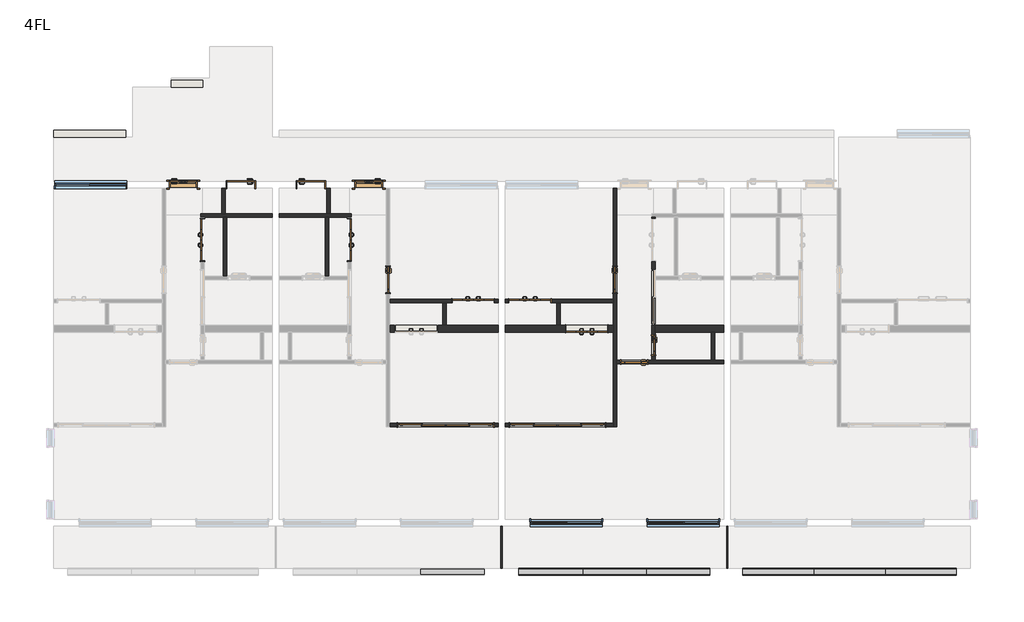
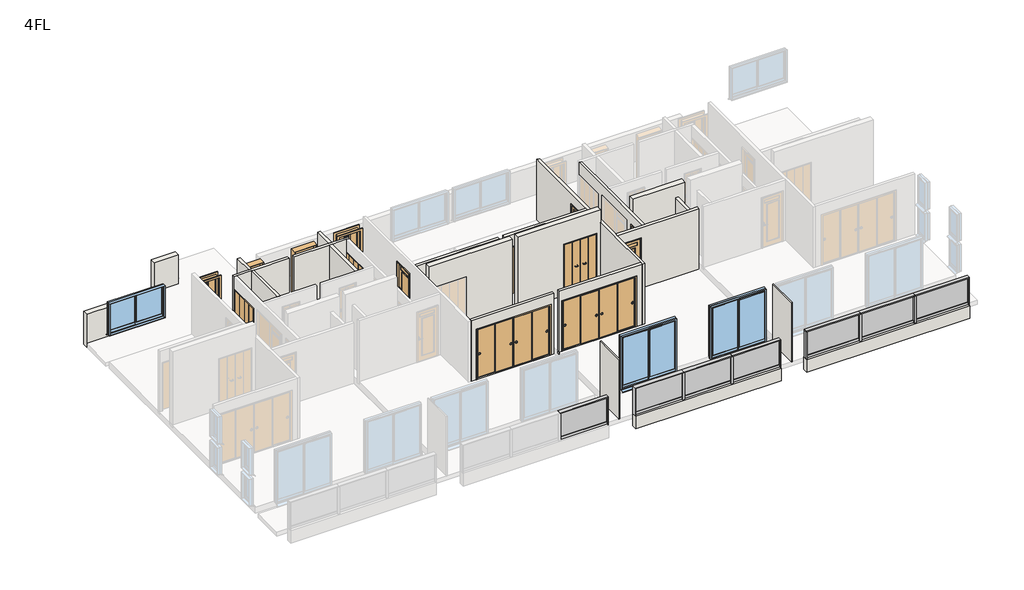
# One storey, part 2 of 3: 25 walls, 16 members, 15 doors, 7 plates, 3 windows.
"""IFC4 building model written with IfcOpenShell, lengths in millimetres."""

from ifc_helpers import new_model, si_unit, frame, origin, place, context, project, spatial, polyline, outline, extrude, faceted_brep, transform, mapped, element, save
from components import door_1200x2000_98cacc9b, door_1200x2000_6a144d60, door_1200x2000_99d19fb3, door_2800x2000_670b855b, door_2800x2000_04aa64cd, door_600x2000_7f2747f4, door_800x2000_a7d1584b, door_800x2000_13e9f519, door_800x2000_ccb03061, door_800x2000_010bfebf, w800h2000_1d97c4d4, w800h2000_0ab7d42c, member_25x150_3f8205e2, member_25x150_e252ec85, member_25x150_8b8be5b9, member_25x150_69a01d83, member_25x150_4c9d34cf, member_70x150_851c8a9b, plate_5aac5250, plate_977e9fc7, plate_28239825, plate_ce56c4f8, window_2000x1200_fc91d1cf, window_2000x2000_f1ff98da

model = new_model("IFC4")

# Units and contexts
model_context = context("Model", 3, world=origin())
ifc_project = project(units=[si_unit("LENGTHUNIT", "METRE", prefix="MILLI")], contexts=[model_context])

# Site, building, storey
site = spatial("IfcSite", under=ifc_project)
building = spatial("IfcBuilding", under=site)
storey = spatial("IfcBuildingStorey", under=building, Name="4FL", Elevation=10000.0)

# Doors
placement = place(None, origin())
door_1200x2000_shape = door_1200x2000_98cacc9b(model_context)
element("IfcDoor", 1, ObjectType="木製折戸 : 1200x2000", at=placement, inside=storey, context=model_context, shape_type="MappedRepresentation", body=[
    mapped(door_1200x2000_shape, transform((4158.7812754, -9820.1171638, 10100.0), x_axis=(-1.0, 0.0, 0.0), y_axis=(0.0, -1.0, 0.0), z_axis=(0.0, 0.0, 1.0))),
])
door_1200x2000_2_shape = door_1200x2000_6a144d60(model_context)
element("IfcDoor", 2, ObjectType="木製折戸 : 1200x2000", at=placement, inside=storey, context=model_context, shape_type="MappedRepresentation", body=[
    mapped(door_1200x2000_2_shape, transform((-6828.7187246, -7280.1171638, 10000.0), x_axis=(0.0, 1.0, 0.0), y_axis=(-1.0, 0.0, 0.0), z_axis=(0.0, 0.0, 1.0))),
])
element("IfcDoor", 3, ObjectType="木製折戸 : 1200x2000", at=placement, inside=storey, context=model_context, shape_type="MappedRepresentation", body=[
    mapped(door_1200x2000_2_shape, transform((2533.7812754, -9020.1171638, 10000.0), x_axis=(1.0, 0.0, 0.0), y_axis=(0.0, 1.0, 0.0), z_axis=(0.0, 0.0, 1.0))),
])
door_1200x2000_3_shape = door_1200x2000_99d19fb3(model_context)
element("IfcDoor", 4, ObjectType="木製折戸 : 1200x2000", at=placement, inside=storey, context=model_context, shape_type="MappedRepresentation", body=[
    mapped(door_1200x2000_3_shape, transform((-2628.7187246, -7280.1171638, 10000.0), x_axis=(0.0, 1.0, 0.0), y_axis=(-1.0, 0.0, 0.0), z_axis=(0.0, 0.0, 1.0))),
])
element("IfcDoor", 5, ObjectType="木製折戸 : 1200x2000", at=placement, inside=storey, context=model_context, shape_type="MappedRepresentation", body=[
    mapped(door_1200x2000_3_shape, transform((908.7812754, -9020.1171638, 10000.0), x_axis=(-1.0, 0.0, 0.0), y_axis=(0.0, -1.0, 0.0), z_axis=(0.0, 0.0, 1.0))),
])
door_2800x2000_shape = door_2800x2000_670b855b(model_context)
element("IfcDoor", 6, ObjectType="引違い 4 枚 2 溝_襖 : 2800x2000", at=placement, inside=storey, context=model_context, shape_type="MappedRepresentation", body=[
    mapped(door_2800x2000_shape, transform((3326.8167793, -12570.1171638, 10100.0), x_axis=(1.0, 0.0, 0.0), y_axis=(0.0, 1.0, 0.0), z_axis=(0.0, 0.0, 1.0))),
])
door_2800x2000_2_shape = door_2800x2000_04aa64cd(model_context)
element("IfcDoor", 7, ObjectType="引違い 4 枚 2 溝_襖 : 2800x2000", at=placement, inside=storey, context=model_context, shape_type="MappedRepresentation", body=[
    mapped(door_2800x2000_2_shape, transform((115.7457714, -12570.1171638, 10100.0), x_axis=(-1.0, 0.0, 0.0), y_axis=(0.0, -1.0, 0.0), z_axis=(0.0, 0.0, 1.0))),
])
door_600x2000_shape = door_600x2000_7f2747f4(model_context)
element("IfcDoor", 8, ObjectType="片開き戸CL2058 : 600x2000", at=placement, inside=storey, context=model_context, shape_type="MappedRepresentation", body=[
    mapped(door_600x2000_shape, transform((6071.2812754, -10295.1171638, 10100.0), x_axis=(0.0, -1.0, 0.0), y_axis=(1.0, 0.0, 0.0), z_axis=(0.0, 0.0, 1.0))),
])
door_800x2000_shape = door_800x2000_a7d1584b(model_context)
element("IfcDoor", 9, ObjectType="片開き3 : 800x2000", at=placement, inside=storey, context=model_context, shape_type="MappedRepresentation", body=[
    mapped(door_800x2000_shape, transform((-7378.7187246, -5700.1171638, 10000.0), x_axis=(1.0, 0.0, 0.0), y_axis=(0.0, 1.0, 0.0), z_axis=(0.0, 0.0, 1.0))),
])
door_800x2000_2_shape = door_800x2000_13e9f519(model_context)
element("IfcDoor", 10, ObjectType="片開き戸CL2058 : 800x2000", at=placement, inside=storey, context=model_context, shape_type="MappedRepresentation", body=[
    mapped(door_800x2000_2_shape, transform((4971.2812754, -8420.1171638, 10100.0), x_axis=(0.0, -1.0, 0.0), y_axis=(1.0, 0.0, 0.0), z_axis=(0.0, 0.0, 1.0))),
])
door_800x2000_3_shape = door_800x2000_ccb03061(model_context)
element("IfcDoor", 11, ObjectType="片開き戸CL2058 : 800x2000", at=placement, inside=storey, context=model_context, shape_type="MappedRepresentation", body=[
    mapped(door_800x2000_3_shape, transform((-1528.7187246, -8420.1171638, 10100.0), x_axis=(0.0, -1.0, 0.0), y_axis=(1.0, 0.0, 0.0), z_axis=(0.0, 0.0, 1.0))),
])
element("IfcDoor", 12, ObjectType="片開き戸CL2058 : 800x2000", at=placement, inside=storey, context=model_context, shape_type="MappedRepresentation", body=[
    mapped(door_800x2000_3_shape, transform((5521.2812754, -10770.1171638, 10100.0), x_axis=(-1.0, 0.0, 0.0), y_axis=(0.0, -1.0, 0.0), z_axis=(0.0, 0.0, 1.0))),
])
door_800x2000_4_shape = door_800x2000_010bfebf(model_context)
element("IfcDoor", 13, ObjectType="片開き3 : 800x2000", at=placement, inside=storey, context=model_context, shape_type="MappedRepresentation", body=[
    mapped(door_800x2000_4_shape, transform((-2078.7187246, -5700.1171638, 10000.0), x_axis=(-1.0, 0.0, 0.0), y_axis=(0.0, -1.0, 0.0), z_axis=(0.0, 0.0, 1.0))),
])
w800h2000_shape = w800h2000_1d97c4d4(model_context)
element("IfcDoor", 14, ObjectType="片開き : w800h2000", at=placement, inside=storey, context=model_context, shape_type="MappedRepresentation", body=[
    mapped(w800h2000_shape, transform((-5728.7187246, -5700.1171638, 10000.0), x_axis=(-1.0, 0.0, 0.0), y_axis=(0.0, -1.0, 0.0), z_axis=(0.0, 0.0, 1.0))),
])
w800h2000_2_shape = w800h2000_0ab7d42c(model_context)
element("IfcDoor", 15, ObjectType="片開き : w800h2000", at=placement, inside=storey, context=model_context, shape_type="MappedRepresentation", body=[
    mapped(w800h2000_2_shape, transform((-3728.7187246, -5700.1171638, 10000.0), x_axis=(1.0, 0.0, 0.0), y_axis=(0.0, 1.0, 0.0), z_axis=(0.0, 0.0, 1.0))),
])

# Members
member_25x150_shape = member_25x150_3f8205e2(model_context)
element("IfcMember", 16, ObjectType="長方形のマリオン : 25x150", at=placement, inside=storey, context=model_context, shape_type="MappedRepresentation", body=[
    mapped(member_25x150_shape, transform((1221.2812754, -16770.1171638, 10000.0), x_axis=(1.0, 0.0, 0.0), y_axis=(0.0, -1.0, 0.0), z_axis=(0.0, 0.0, -1.0))),
])
element("IfcMember", 17, ObjectType="長方形のマリオン : 25x150", at=placement, inside=storey, context=model_context, shape_type="MappedRepresentation", body=[
    mapped(member_25x150_shape, transform((7671.2812754, -16770.1171638, 10000.0), x_axis=(1.0, 0.0, 0.0), y_axis=(0.0, -1.0, 0.0), z_axis=(0.0, 0.0, -1.0))),
])
element("IfcMember", 18, ObjectType="長方形のマリオン : 25x150", at=placement, inside=storey, context=model_context, shape_type="MappedRepresentation", body=[
    mapped(member_25x150_shape, transform((14721.2812754, -16770.1171638, 10000.0), x_axis=(1.0, 0.0, 0.0), y_axis=(0.0, -1.0, 0.0), z_axis=(0.0, 0.0, -1.0))),
])
element("IfcMember", 19, ObjectType="長方形のマリオン : 25x150", at=placement, inside=storey, context=model_context, shape_type="MappedRepresentation", body=[
    mapped(member_25x150_shape, transform((2221.2812754, -16770.1171638, 11075.0), x_axis=(-1.0, 0.0, 0.0), y_axis=(0.0, -1.0, 0.0), z_axis=(0.0, 0.0, 1.0))),
])
element("IfcMember", 20, ObjectType="長方形のマリオン : 25x150", at=placement, inside=storey, context=model_context, shape_type="MappedRepresentation", body=[
    mapped(member_25x150_shape, transform((8621.2812754, -16770.1171638, 11075.0), x_axis=(-1.0, 0.0, 0.0), y_axis=(0.0, -1.0, 0.0), z_axis=(0.0, 0.0, 1.0))),
])
member_25x150_2_shape = member_25x150_e252ec85(model_context)
element("IfcMember", 21, ObjectType="長方形のマリオン : 25x150", at=placement, inside=storey, context=model_context, shape_type="MappedRepresentation", body=[
    mapped(member_25x150_2_shape, transform((1221.2812754, -16770.1171638, 11100.0), x_axis=(0.0, 0.0, 1.0), y_axis=(0.0, -1.0, 0.0), z_axis=(1.0, 0.0, 0.0))),
])
element("IfcMember", 22, ObjectType="長方形のマリオン : 25x150", at=placement, inside=storey, context=model_context, shape_type="MappedRepresentation", body=[
    mapped(member_25x150_2_shape, transform((7671.2812754, -16770.1171638, 11100.0), x_axis=(0.0, 0.0, 1.0), y_axis=(0.0, -1.0, 0.0), z_axis=(1.0, 0.0, 0.0))),
])
element("IfcMember", 23, ObjectType="長方形のマリオン : 25x150", at=placement, inside=storey, context=model_context, shape_type="MappedRepresentation", body=[
    mapped(member_25x150_2_shape, transform((4037.9479421, -16770.1171638, 11100.0), x_axis=(0.0, 0.0, 1.0), y_axis=(0.0, -1.0, 0.0), z_axis=(1.0, 0.0, 0.0))),
])
member_25x150_3_shape = member_25x150_8b8be5b9(model_context)
element("IfcMember", 24, ObjectType="長方形のマリオン : 25x150", at=placement, inside=storey, context=model_context, shape_type="MappedRepresentation", body=[
    mapped(member_25x150_3_shape, transform((5854.6146086, -16770.1171638, 11100.0), x_axis=(0.0, 0.0, 1.0), y_axis=(0.0, -1.0, 0.0), z_axis=(1.0, 0.0, 0.0))),
])
member_25x150_4_shape = member_25x150_69a01d83(model_context)
element("IfcMember", 25, ObjectType="長方形のマリオン : 25x150", at=placement, inside=storey, context=model_context, shape_type="MappedRepresentation", body=[
    mapped(member_25x150_4_shape, transform((14721.2812754, -16770.1171638, 11100.0), x_axis=(0.0, 0.0, 1.0), y_axis=(0.0, -1.0, 0.0), z_axis=(1.0, 0.0, 0.0))),
])
element("IfcMember", 26, ObjectType="長方形のマリオン : 25x150", at=placement, inside=storey, context=model_context, shape_type="MappedRepresentation", body=[
    mapped(member_25x150_4_shape, transform((10654.6146088, -16770.1171638, 11100.0), x_axis=(0.0, 0.0, 1.0), y_axis=(0.0, -1.0, 0.0), z_axis=(1.0, 0.0, 0.0))),
])
member_25x150_5_shape = member_25x150_4c9d34cf(model_context)
element("IfcMember", 27, ObjectType="長方形のマリオン : 25x150", at=placement, inside=storey, context=model_context, shape_type="MappedRepresentation", body=[
    mapped(member_25x150_5_shape, transform((12687.9479419, -16770.1171638, 11100.0), x_axis=(0.0, 0.0, 1.0), y_axis=(0.0, -1.0, 0.0), z_axis=(1.0, 0.0, 0.0))),
])
member_70x150_shape = member_70x150_851c8a9b(model_context)
element("IfcMember", 28, ObjectType="長方形のマリオン : 70x150", at=placement, inside=storey, context=model_context, shape_type="MappedRepresentation", body=[
    mapped(member_70x150_shape, transform((4037.9479421, -16770.1171638, 10000.0), x_axis=(1.0, 0.0, 0.0), y_axis=(0.0, -1.0, 0.0), z_axis=(0.0, 0.0, -1.0))),
])
element("IfcMember", 29, ObjectType="長方形のマリオン : 70x150", at=placement, inside=storey, context=model_context, shape_type="MappedRepresentation", body=[
    mapped(member_70x150_shape, transform((5854.6146086, -16770.1171638, 10000.0), x_axis=(1.0, 0.0, 0.0), y_axis=(0.0, -1.0, 0.0), z_axis=(0.0, 0.0, -1.0))),
])
element("IfcMember", 30, ObjectType="長方形のマリオン : 70x150", at=placement, inside=storey, context=model_context, shape_type="MappedRepresentation", body=[
    mapped(member_70x150_shape, transform((10654.6146088, -16770.1171638, 10000.0), x_axis=(1.0, 0.0, 0.0), y_axis=(0.0, -1.0, 0.0), z_axis=(0.0, 0.0, -1.0))),
])
element("IfcMember", 31, ObjectType="長方形のマリオン : 70x150", at=placement, inside=storey, context=model_context, shape_type="MappedRepresentation", body=[
    mapped(member_70x150_shape, transform((12687.9479419, -16770.1171638, 10000.0), x_axis=(1.0, 0.0, 0.0), y_axis=(0.0, -1.0, 0.0), z_axis=(0.0, 0.0, -1.0))),
])

# Plates
plate_shape = plate_5aac5250(model_context)
element("IfcPlate", 32, ObjectType="r パネル FIX 下框付 : 框 H100", at=placement, inside=storey, context=model_context, shape_type="MappedRepresentation", body=[
    mapped(plate_shape, transform((317.947942, -16770.1171638, 10000.0), x_axis=(1.0, 0.0, 0.0), y_axis=(0.0, 1.0, 0.0), z_axis=(0.0, 0.0, 1.0))),
])
element("IfcPlate", 33, ObjectType="r パネル FIX 下框付 : 框 H100", at=placement, inside=storey, context=model_context, shape_type="MappedRepresentation", body=[
    mapped(plate_shape, transform((3124.6146087, -16770.1171638, 10000.0), x_axis=(1.0, 0.0, 0.0), y_axis=(0.0, 1.0, 0.0), z_axis=(0.0, 0.0, 1.0))),
])
element("IfcPlate", 34, ObjectType="r パネル FIX 下框付 : 框 H100", at=placement, inside=storey, context=model_context, shape_type="MappedRepresentation", body=[
    mapped(plate_shape, transform((6767.947942, -16770.1171638, 10000.0), x_axis=(1.0, 0.0, 0.0), y_axis=(0.0, 1.0, 0.0), z_axis=(0.0, 0.0, 1.0))),
])
plate_2_shape = plate_977e9fc7(model_context)
element("IfcPlate", 35, ObjectType="r パネル FIX 下框付 : 框 H100", at=placement, inside=storey, context=model_context, shape_type="MappedRepresentation", body=[
    mapped(plate_2_shape, transform((4946.2812754, -16770.1171638, 10000.0), x_axis=(1.0, 0.0, 0.0), y_axis=(0.0, 1.0, 0.0), z_axis=(0.0, 0.0, 1.0))),
])
plate_3_shape = plate_28239825(model_context)
element("IfcPlate", 36, ObjectType="r パネル FIX 下框付 : 框 H100", at=placement, inside=storey, context=model_context, shape_type="MappedRepresentation", body=[
    mapped(plate_3_shape, transform((9632.9479421, -16770.1171638, 10000.0), x_axis=(1.0, 0.0, 0.0), y_axis=(0.0, 1.0, 0.0), z_axis=(0.0, 0.0, 1.0))),
])
element("IfcPlate", 37, ObjectType="r パネル FIX 下框付 : 框 H100", at=placement, inside=storey, context=model_context, shape_type="MappedRepresentation", body=[
    mapped(plate_3_shape, transform((13709.6146086, -16770.1171638, 10000.0), x_axis=(1.0, 0.0, 0.0), y_axis=(0.0, 1.0, 0.0), z_axis=(0.0, 0.0, 1.0))),
])
plate_4_shape = plate_ce56c4f8(model_context)
element("IfcPlate", 38, ObjectType="r パネル FIX 下框付 : 框 H100", at=placement, inside=storey, context=model_context, shape_type="MappedRepresentation", body=[
    mapped(plate_4_shape, transform((11671.2812754, -16770.1171638, 10000.0), x_axis=(1.0, 0.0, 0.0), y_axis=(0.0, 1.0, 0.0), z_axis=(0.0, 0.0, 1.0))),
])

# Walls
element("IfcWall", 39, ObjectType="(R)RC200", at=placement, inside=storey, context=model_context, shape_type="Brep", body=[
    faceted_brep([(1621.2812754, -9720.1171638, 10000.0), (146.2812754, -9720.1171638, 10000.0), (46.2812754, -9720.1171638, 10000.0), (-1478.7187246, -9720.1171638, 10000.0), (-1478.7187246, -9720.1171638, 13000.0), (1621.2812754, -9720.1171638, 13000.0), (-96.2187246, -9720.1171638, 12120.0), (-1336.2187246, -9720.1171638, 12120.0), (-1336.2187246, -9720.1171638, 10100.0), (-96.2187246, -9720.1171638, 10100.0), (1621.2812754, -9920.1171638, 10000.0), (1621.2812754, -9920.1171638, 13000.0), (-1478.7187246, -9920.1171638, 13000.0), (-1478.7187246, -9920.1171638, 10000.0), (-96.2187246, -9920.1171638, 12120.0), (-96.2187246, -9920.1171638, 10100.0), (-1336.2187246, -9920.1171638, 10100.0), (-1336.2187246, -9920.1171638, 12120.0)], [[[0, 1, 2, 3, 4, 5], [6, 7, 8, 9]], [[10, 11, 12, 13], [14, 15, 16, 17]], [[3, 2, 1, 0, 10, 13]], [[5, 4, 12, 11]], [[15, 14, 6, 9]], [[16, 15, 9, 8]], [[17, 16, 8, 7]], [[14, 17, 7, 6]], [[4, 3, 13, 12]], [[0, 5, 11, 10]]]),
])
element("IfcWall", 40, ObjectType="(R)RC200", at=placement, inside=storey, context=model_context, shape_type="Brep", body=[
    faceted_brep([(1821.2812754, -9920.1171638, 10000.0), (4921.2812754, -9920.1171638, 10000.0), (4921.2812754, -9920.1171638, 13000.0), (1821.2812754, -9920.1171638, 13000.0), (3538.7812754, -9920.1171638, 12120.0), (4778.7812754, -9920.1171638, 12120.0), (4778.7812754, -9920.1171638, 10100.0), (3538.7812754, -9920.1171638, 10100.0), (1821.2812754, -9720.1171638, 10000.0), (1821.2812754, -9720.1171638, 13000.0), (4921.2812754, -9720.1171638, 13000.0), (4921.2812754, -9720.1171638, 10000.0), (3396.2812754, -9720.1171638, 10000.0), (3296.2812754, -9720.1171638, 10000.0), (3538.7812754, -9720.1171638, 12120.0), (3538.7812754, -9720.1171638, 10100.0), (4778.7812754, -9720.1171638, 10100.0), (4778.7812754, -9720.1171638, 12120.0)], [[[0, 1, 2, 3], [4, 5, 6, 7]], [[8, 9, 10, 11, 12, 13], [14, 15, 16, 17]], [[1, 0, 8, 13, 12, 11]], [[3, 2, 10, 9]], [[15, 14, 4, 7]], [[16, 15, 7, 6]], [[17, 16, 6, 5]], [[14, 17, 5, 4]], [[2, 1, 11, 10]], [[0, 3, 9, 8]]]),
])
element("IfcWall", 41, ObjectType="(R)RC200", at=placement, inside=storey, context=model_context, shape_type="Brep", body=[
    faceted_brep([(6121.2812754, -9920.1171638, 10000.0), (7721.2812754, -9920.1171638, 10000.0), (7821.2812754, -9920.1171638, 10000.0), (8071.2812754, -9920.1171638, 10000.0), (8071.2812754, -9920.1171638, 13000.0), (6121.2812754, -9920.1171638, 13000.0), (6121.2812754, -9720.1171638, 10000.0), (6121.2812754, -9720.1171638, 10100.0), (6121.2812754, -9720.1171638, 12100.0), (6121.2812754, -9720.1171638, 13000.0), (8071.2812754, -9720.1171638, 13000.0), (8071.2812754, -9720.1171638, 10000.0)], [[[0, 1, 2, 3, 4, 5]], [[6, 7, 8, 9, 10, 11]], [[3, 2, 1, 0, 6, 11]], [[5, 4, 10, 9]], [[0, 5, 9, 8, 7, 6]], [[4, 3, 11, 10]]]),
])
element("IfcWall", 42, ObjectType="(R)RC200", at=placement, inside=storey, context=model_context, shape_type="Brep", body=[
    faceted_brep([(-11078.7187246, -4350.1171638, 9800.0), (-9028.7187246, -4350.1171638, 9800.0), (-9028.7187246, -4350.1171638, 11068.2352941), (-9028.7187246, -4350.1171638, 11100.0), (-11078.7187246, -4350.1171638, 11100.0), (-11078.7187246, -4150.1171638, 9800.0), (-11078.7187246, -4150.1171638, 11100.0), (-9028.7187246, -4150.1171638, 11100.0), (-9028.7187246, -4150.1171638, 9800.0)], [[[0, 1, 2, 3, 4]], [[5, 6, 7, 8]], [[1, 0, 5, 8]], [[4, 3, 7, 6]], [[0, 4, 6, 5]], [[3, 2, 1, 8, 7]]]),
])
element("IfcWall", 43, ObjectType="(R)RC200", at=placement, inside=storey, context=model_context, shape_type="SweptSolid", body=[
    extrude(outline(polyline([(7671.2812754, -16870.1171638), (2221.2812754, -16870.1171638), (2221.2812754, -16670.1171638), (7671.2812754, -16670.1171638), (7671.2812754, -16870.1171638)])), frame((0.0, 0.0, 9500.0), z_axis=(0.0, 0.0, 1.0), x_axis=(1.0, 0.0, 0.0)), (0.0, 0.0, 1.0), 500.0),
])
element("IfcWall", 44, ObjectType="(R)RC200", at=placement, inside=storey, context=model_context, shape_type="SweptSolid", body=[
    extrude(outline(polyline([(14721.2812754, -16870.1171638), (8621.2812754, -16870.1171638), (8621.2812754, -16670.1171638), (14721.2812754, -16670.1171638), (14721.2812754, -16870.1171638)])), frame((0.0, 0.0, 9500.0), z_axis=(0.0, 0.0, 1.0), x_axis=(1.0, 0.0, 0.0)), (0.0, 0.0, 1.0), 500.0),
])
element("IfcWall", 45, ObjectType="(R)RC200", at=placement, inside=storey, context=model_context, shape_type="SweptSolid", body=[
    extrude(outline(polyline([(-6828.7187246, -2920.1171638), (-7728.7187246, -2920.1171638), (-7728.7187246, -2720.1171638), (-6828.7187246, -2720.1171638), (-6828.7187246, -2920.1171638)])), frame((0.0, 0.0, 9950.0), z_axis=(0.0, 0.0, 1.0), x_axis=(1.0, 0.0, 0.0)), (0.0, 0.0, 1.0), 1150.0),
])
element("IfcWall", 46, ObjectType="(F)30", at=placement, inside=storey, context=model_context, shape_type="SweptSolid", body=[
    extrude(outline(polyline([(1706.2812754, -16670.1171638), (1706.2812754, -15470.1171638), (1736.2812754, -15470.1171638), (1736.2812754, -16670.1171638), (1706.2812754, -16670.1171638)])), frame((0.0, 0.0, 9950.0), z_axis=(0.0, 0.0, 1.0), x_axis=(1.0, 0.0, 0.0)), (0.0, 0.0, 1.0), 2350.0),
])
element("IfcWall", 47, ObjectType="(F)30", at=placement, inside=storey, context=model_context, shape_type="SweptSolid", body=[
    extrude(outline(polyline([(8156.2812754, -16670.1171638), (8156.2812754, -15470.1171638), (8186.2812754, -15470.1171638), (8186.2812754, -16670.1171638), (8156.2812754, -16670.1171638)])), frame((0.0, 0.0, 9950.0), z_axis=(0.0, 0.0, 1.0), x_axis=(1.0, 0.0, 0.0)), (0.0, 0.0, 1.0), 2350.0),
])
element("IfcWall", 48, ObjectType="(L1)LGS100", at=placement, inside=storey, context=model_context, shape_type="Brep", body=[
    faceted_brep([(-6878.7187246, -6630.1171638, 10000.0), (-6778.7187246, -6630.1171638, 10000.0), (-6238.7187246, -6630.1171638, 10000.0), (-6138.7187246, -6630.1171638, 10000.0), (-4828.7187246, -6630.1171638, 10000.0), (-4828.7187246, -6630.1171638, 12500.0), (-6138.7187246, -6630.1171638, 12500.0), (-6238.7187246, -6630.1171638, 12500.0), (-6778.7187246, -6630.1171638, 12500.0), (-6878.7187246, -6630.1171638, 12500.0), (-6878.7187246, -6530.1171638, 10000.0), (-6878.7187246, -6530.1171638, 12500.0), (-6278.7187246, -6530.1171638, 12500.0), (-6178.7187246, -6530.1171638, 12500.0), (-4828.7187246, -6530.1171638, 12500.0), (-4828.7187246, -6530.1171638, 10000.0), (-6178.7187246, -6530.1171638, 10000.0), (-6278.7187246, -6530.1171638, 10000.0)], [[[0, 1, 2, 3, 4, 5, 6, 7, 8, 9]], [[10, 11, 12, 13, 14, 15, 16, 17]], [[4, 3, 2, 1, 0, 10, 17, 16, 15]], [[9, 8, 7, 6, 5, 14, 13, 12, 11]], [[0, 9, 11, 10]], [[5, 4, 15, 14]]]),
])
element("IfcWall", 49, ObjectType="(L1)LGS100", at=placement, inside=storey, context=model_context, shape_type="SweptSolid", body=[
    extrude(outline(polyline([(-6178.7187246, -5800.1171638), (-6178.7187246, -6530.1171638), (-6278.7187246, -6530.1171638), (-6278.7187246, -5800.1171638), (-6178.7187246, -5800.1171638)])), frame((0.0, 0.0, 10000.0), z_axis=(0.0, 0.0, 1.0), x_axis=(1.0, 0.0, 0.0)), (0.0, 0.0, 1.0), 2500.0),
])
element("IfcWall", 50, ObjectType="(L1)LGS100", at=placement, inside=storey, context=model_context, shape_type="SweptSolid", body=[
    extrude(outline(polyline([(-6138.7187246, -6630.1171638), (-6138.7187246, -8320.1171638), (-6238.7187246, -8320.1171638), (-6238.7187246, -6630.1171638), (-6138.7187246, -6630.1171638)])), frame((0.0, 0.0, 10000.0), z_axis=(0.0, 0.0, 1.0), x_axis=(1.0, 0.0, 0.0)), (0.0, 0.0, 1.0), 2500.0),
])
element("IfcWall", 51, ObjectType="(L1)LGS100", at=placement, inside=storey, context=model_context, shape_type="Brep", body=[
    faceted_brep([(-2578.7187246, -6530.1171638, 10000.0), (-3178.7187246, -6530.1171638, 10000.0), (-3278.7187246, -6530.1171638, 10000.0), (-4628.7187246, -6530.1171638, 10000.0), (-4628.7187246, -6530.1171638, 12500.0), (-3278.7187246, -6530.1171638, 12500.0), (-3178.7187246, -6530.1171638, 12500.0), (-2578.7187246, -6530.1171638, 12500.0), (-2578.7187246, -6630.1171638, 10000.0), (-2578.7187246, -6630.1171638, 12500.0), (-2678.7187246, -6630.1171638, 12500.0), (-3218.7187246, -6630.1171638, 12500.0), (-3318.7187246, -6630.1171638, 12500.0), (-4628.7187246, -6630.1171638, 12500.0), (-4628.7187246, -6630.1171638, 10000.0), (-3318.7187246, -6630.1171638, 10000.0), (-3218.7187246, -6630.1171638, 10000.0), (-2678.7187246, -6630.1171638, 10000.0)], [[[0, 1, 2, 3, 4, 5, 6, 7]], [[8, 9, 10, 11, 12, 13, 14, 15, 16, 17]], [[3, 2, 1, 0, 8, 17, 16, 15, 14]], [[7, 6, 5, 4, 13, 12, 11, 10, 9]], [[0, 7, 9, 8]], [[4, 3, 14, 13]]]),
])
element("IfcWall", 52, ObjectType="(L1)LGS100", at=placement, inside=storey, context=model_context, shape_type="SweptSolid", body=[
    extrude(outline(polyline([(-3178.7187246, -5800.1171638), (-3178.7187246, -6530.1171638), (-3278.7187246, -6530.1171638), (-3278.7187246, -5800.1171638), (-3178.7187246, -5800.1171638)])), frame((0.0, 0.0, 10000.0), z_axis=(0.0, 0.0, 1.0), x_axis=(1.0, 0.0, 0.0)), (0.0, 0.0, 1.0), 2500.0),
])
element("IfcWall", 53, ObjectType="(L1)LGS100", at=placement, inside=storey, context=model_context, shape_type="SweptSolid", body=[
    extrude(outline(polyline([(-3218.7187246, -6630.1171638), (-3218.7187246, -8320.1171638), (-3318.7187246, -8320.1171638), (-3318.7187246, -6630.1171638), (-3218.7187246, -6630.1171638)])), frame((0.0, 0.0, 10000.0), z_axis=(0.0, 0.0, 1.0), x_axis=(1.0, 0.0, 0.0)), (0.0, 0.0, 1.0), 2500.0),
])
element("IfcWall", 54, ObjectType="(L1)LGS100", at=placement, inside=storey, context=model_context, shape_type="Brep", body=[
    faceted_brep([(1621.2812754, -8970.1171638, 10000.0), (1528.7812754, -8970.1171638, 10000.0), (1528.7812754, -8970.1171638, 12020.0), (288.7812754, -8970.1171638, 12020.0), (288.7812754, -8970.1171638, 10000.0), (-1478.7187246, -8970.1171638, 10000.0), (-1478.7187246, -8970.1171638, 12500.0), (1621.2812754, -8970.1171638, 12500.0), (1528.7812754, -9070.1171638, 12020.0), (1528.7812754, -9070.1171638, 10000.0), (1621.2812754, -9070.1171638, 10000.0), (1621.2812754, -9070.1171638, 12500.0), (146.2812754, -9070.1171638, 12500.0), (46.2812754, -9070.1171638, 12500.0), (-1478.7187246, -9070.1171638, 12500.0), (-1478.7187246, -9070.1171638, 10000.0), (46.2812754, -9070.1171638, 10000.0), (146.2812754, -9070.1171638, 10000.0), (288.7812754, -9070.1171638, 10000.0), (288.7812754, -9070.1171638, 12020.0)], [[[0, 1, 2, 3, 4, 5, 6, 7]], [[8, 9, 10, 11, 12, 13, 14, 15, 16, 17, 18, 19]], [[10, 9, 1, 0]], [[18, 17, 16, 15, 5, 4]], [[7, 6, 14, 13, 12, 11]], [[4, 3, 19, 18]], [[2, 1, 9, 8]], [[3, 2, 8, 19]], [[6, 5, 15, 14]], [[0, 7, 11, 10]]]),
])
element("IfcWall", 55, ObjectType="(L1)LGS100", at=placement, inside=storey, context=model_context, shape_type="SweptSolid", body=[
    extrude(outline(polyline([(146.2812754, -9070.1171638), (146.2812754, -9720.1171638), (46.2812754, -9720.1171638), (46.2812754, -9070.1171638), (146.2812754, -9070.1171638)])), frame((0.0, 0.0, 10000.0), z_axis=(0.0, 0.0, 1.0), x_axis=(1.0, 0.0, 0.0)), (0.0, 0.0, 1.0), 2500.0),
])
element("IfcWall", 56, ObjectType="(L1)LGS100", at=placement, inside=storey, context=model_context, shape_type="SweptSolid", body=[
    extrude(outline(polyline([(10000.0, 1621.2812754), (12500.0, 1621.2812754), (12500.0, -1478.7187246), (10000.0, -1478.7187246), (10000.0, 1621.2812754)]), holes=[polyline([(12100.0, -1278.7187246), (12100.0, 1521.2812754), (10100.0, 1521.2812754), (10100.0, -1278.7187246), (12100.0, -1278.7187246)])]), frame((0.0, -12620.1171638, 0.0), z_axis=(0.0, 1.0, 0.0), x_axis=(0.0, 0.0, 1.0)), (0.0, 0.0, 1.0), 100.0),
])
element("IfcWall", 57, ObjectType="(L1)LGS100", at=placement, inside=storey, context=model_context, shape_type="Brep", body=[
    faceted_brep([(5021.2812754, -12620.1171638, 10000.0), (5021.2812754, -10820.1171638, 10000.0), (5021.2812754, -10720.1171638, 10000.0), (5021.2812754, -5800.1171638, 10000.0), (5021.2812754, -5800.1171638, 12500.0), (5021.2812754, -10720.1171638, 12500.0), (5021.2812754, -10820.1171638, 12500.0), (5021.2812754, -12620.1171638, 12500.0), (5021.2812754, -8820.1171638, 10100.0), (5021.2812754, -8820.1171638, 12100.0), (5021.2812754, -8020.1171638, 12100.0), (5021.2812754, -8020.1171638, 10100.0), (4921.2812754, -12620.1171638, 10000.0), (4921.2812754, -12620.1171638, 12500.0), (4921.2812754, -12520.1171638, 12500.0), (4921.2812754, -9070.1171638, 12500.0), (4921.2812754, -8970.1171638, 12500.0), (4921.2812754, -5800.1171638, 12500.0), (4921.2812754, -5800.1171638, 10000.0), (4921.2812754, -8970.1171638, 10000.0), (4921.2812754, -9070.1171638, 10000.0), (4921.2812754, -9720.1171638, 10000.0), (4921.2812754, -9920.1171638, 10000.0), (4921.2812754, -12520.1171638, 10000.0), (4921.2812754, -8820.1171638, 10100.0), (4921.2812754, -8020.1171638, 10100.0), (4921.2812754, -8020.1171638, 12100.0), (4921.2812754, -8820.1171638, 12100.0)], [[[0, 1, 2, 3, 4, 5, 6, 7], [8, 9, 10, 11]], [[12, 13, 14, 15, 16, 17, 18, 19, 20, 21, 22, 23], [24, 25, 26, 27]], [[3, 2, 1, 0, 12, 23, 22, 21, 20, 19, 18]], [[7, 6, 5, 4, 17, 16, 15, 14, 13]], [[9, 8, 24, 27]], [[10, 9, 27, 26]], [[11, 10, 26, 25]], [[8, 11, 25, 24]], [[0, 7, 13, 12]], [[4, 3, 18, 17]]]),
])
element("IfcWall", 58, ObjectType="(L1)LGS100", at=placement, inside=storey, context=model_context, shape_type="Brep", body=[
    faceted_brep([(6121.2812754, -6630.1171638, 12500.0), (6121.2812754, -8320.1171638, 12500.0), (6121.2812754, -8420.1171638, 12500.0), (6121.2812754, -10720.1171638, 12500.0), (6121.2812754, -10720.1171638, 10000.0), (6121.2812754, -9920.1171638, 10000.0), (6121.2812754, -9720.1171638, 10000.0), (6121.2812754, -8420.1171638, 10000.0), (6121.2812754, -8320.1171638, 10000.0), (6121.2812754, -7900.1171638, 10000.0), (6121.2812754, -7900.1171638, 12020.0), (6121.2812754, -6660.1171638, 12020.0), (6121.2812754, -6660.1171638, 10000.0), (6121.2812754, -6630.1171638, 10000.0), (6121.2812754, -10595.1171638, 10100.0), (6121.2812754, -10595.1171638, 12100.0), (6121.2812754, -9995.1171638, 12100.0), (6121.2812754, -9995.1171638, 10100.0), (6121.2812754, -9720.1171638, 10100.0), (6121.2812754, -9720.1171638, 12100.0), (6121.2812754, -8120.1171638, 12100.0), (6121.2812754, -8120.1171638, 10100.0), (6021.2812754, -10720.1171638, 12500.0), (6021.2812754, -6630.1171638, 12500.0), (6021.2812754, -6630.1171638, 10000.0), (6021.2812754, -6660.1171638, 10000.0), (6021.2812754, -6660.1171638, 12020.0), (6021.2812754, -7900.1171638, 12020.0), (6021.2812754, -7900.1171638, 10000.0), (6021.2812754, -10720.1171638, 10000.0), (6021.2812754, -10595.1171638, 10100.0), (6021.2812754, -9995.1171638, 10100.0), (6021.2812754, -9995.1171638, 12100.0), (6021.2812754, -10595.1171638, 12100.0), (6021.2812754, -9720.1171638, 12100.0), (6021.2812754, -9720.1171638, 10100.0), (6021.2812754, -8120.1171638, 10100.0), (6021.2812754, -8120.1171638, 12100.0)], [[[0, 1, 2, 3, 4, 5, 6, 7, 8, 9, 10, 11, 12, 13], [14, 15, 16, 17], [18, 19, 20, 21]], [[22, 23, 24, 25, 26, 27, 28, 29], [30, 31, 32, 33], [34, 35, 36, 37]], [[12, 25, 24, 13]], [[28, 9, 8, 7, 6, 5, 4, 29]], [[3, 2, 1, 0, 23, 22]], [[15, 14, 30, 33]], [[16, 15, 33, 32]], [[17, 16, 32, 31]], [[14, 17, 31, 30]], [[18, 35, 34, 19]], [[19, 34, 37, 20]], [[20, 37, 36, 21]], [[35, 18, 21, 36]], [[12, 11, 26, 25]], [[10, 9, 28, 27]], [[11, 10, 27, 26]], [[4, 3, 22, 29]], [[0, 13, 24, 23]]]),
])
element("IfcWall", 59, ObjectType="(L1)LGS100", at=placement, inside=storey, context=model_context, shape_type="Brep", body=[
    faceted_brep([(5021.2812754, -10820.1171638, 10000.0), (8071.2812754, -10820.1171638, 10000.0), (8071.2812754, -10820.1171638, 12500.0), (5021.2812754, -10820.1171638, 12500.0), (5121.2812754, -10820.1171638, 10100.0), (5121.2812754, -10820.1171638, 12100.0), (5921.2812754, -10820.1171638, 12100.0), (5921.2812754, -10820.1171638, 10100.0), (5021.2812754, -10720.1171638, 10000.0), (5021.2812754, -10720.1171638, 12500.0), (6021.2812754, -10720.1171638, 12500.0), (6121.2812754, -10720.1171638, 12500.0), (7721.2812754, -10720.1171638, 12500.0), (7821.2812754, -10720.1171638, 12500.0), (8071.2812754, -10720.1171638, 12500.0), (8071.2812754, -10720.1171638, 10000.0), (7821.2812754, -10720.1171638, 10000.0), (7721.2812754, -10720.1171638, 10000.0), (6121.2812754, -10720.1171638, 10000.0), (6021.2812754, -10720.1171638, 10000.0), (5121.2812754, -10720.1171638, 10100.0), (5921.2812754, -10720.1171638, 10100.0), (5921.2812754, -10720.1171638, 12100.0), (5121.2812754, -10720.1171638, 12100.0)], [[[0, 1, 2, 3], [4, 5, 6, 7]], [[8, 9, 10, 11, 12, 13, 14, 15, 16, 17, 18, 19], [20, 21, 22, 23]], [[1, 0, 8, 19, 18, 17, 16, 15]], [[3, 2, 14, 13, 12, 11, 10, 9]], [[5, 4, 20, 23]], [[6, 5, 23, 22]], [[7, 6, 22, 21]], [[4, 7, 21, 20]], [[0, 3, 9, 8]], [[2, 1, 15, 14]]]),
])
element("IfcWall", 60, ObjectType="(L1)LGS100", at=placement, inside=storey, context=model_context, shape_type="SweptSolid", body=[
    extrude(outline(polyline([(7821.2812754, -9920.1171638), (7821.2812754, -10720.1171638), (7721.2812754, -10720.1171638), (7721.2812754, -9920.1171638), (7821.2812754, -9920.1171638)])), frame((0.0, 0.0, 10000.0), z_axis=(0.0, 0.0, 1.0), x_axis=(1.0, 0.0, 0.0)), (0.0, 0.0, 1.0), 2500.0),
])
element("IfcWall", 61, ObjectType="(L1)LGS100", at=placement, inside=storey, context=model_context, shape_type="Brep", body=[
    faceted_brep([(1821.2812754, -9070.1171638, 10000.0), (1913.7812754, -9070.1171638, 10000.0), (1913.7812754, -9070.1171638, 12020.0), (3153.7812754, -9070.1171638, 12020.0), (3153.7812754, -9070.1171638, 10000.0), (3296.2812754, -9070.1171638, 10000.0), (3396.2812754, -9070.1171638, 10000.0), (4921.2812754, -9070.1171638, 10000.0), (4921.2812754, -9070.1171638, 12500.0), (3396.2812754, -9070.1171638, 12500.0), (3296.2812754, -9070.1171638, 12500.0), (1821.2812754, -9070.1171638, 12500.0), (1913.7812754, -8970.1171638, 12020.0), (1913.7812754, -8970.1171638, 10000.0), (1821.2812754, -8970.1171638, 10000.0), (1821.2812754, -8970.1171638, 12500.0), (4921.2812754, -8970.1171638, 12500.0), (4921.2812754, -8970.1171638, 10000.0), (3153.7812754, -8970.1171638, 10000.0), (3153.7812754, -8970.1171638, 12020.0)], [[[0, 1, 2, 3, 4, 5, 6, 7, 8, 9, 10, 11]], [[12, 13, 14, 15, 16, 17, 18, 19]], [[18, 17, 7, 6, 5, 4]], [[14, 13, 1, 0]], [[11, 10, 9, 8, 16, 15]], [[4, 3, 19, 18]], [[2, 1, 13, 12]], [[3, 2, 12, 19]], [[8, 7, 17, 16]], [[0, 11, 15, 14]]]),
])
element("IfcWall", 62, ObjectType="(L1)LGS100", at=placement, inside=storey, context=model_context, shape_type="SweptSolid", body=[
    extrude(outline(polyline([(3396.2812754, -9070.1171638), (3396.2812754, -9720.1171638), (3296.2812754, -9720.1171638), (3296.2812754, -9070.1171638), (3396.2812754, -9070.1171638)])), frame((0.0, 0.0, 10000.0), z_axis=(0.0, 0.0, 1.0), x_axis=(1.0, 0.0, 0.0)), (0.0, 0.0, 1.0), 2500.0),
])
element("IfcWall", 63, ObjectType="(L1)LGS100", at=placement, inside=storey, context=model_context, shape_type="SweptSolid", body=[
    extrude(outline(polyline([(10000.0, 1821.2812754), (10000.0, 4921.2812754), (12500.0, 4921.2812754), (12500.0, 1821.2812754), (10000.0, 1821.2812754)]), holes=[polyline([(12100.0, 4721.2812754), (10100.0, 4721.2812754), (10100.0, 1921.2812754), (12100.0, 1921.2812754), (12100.0, 4721.2812754)])]), frame((0.0, -12620.1171638, 0.0), z_axis=(0.0, 1.0, 0.0), x_axis=(0.0, 0.0, 1.0)), (0.0, 0.0, 1.0), 100.0),
])

# Windows
window_2000x1200_shape = window_2000x1200_fc91d1cf(model_context)
element("IfcWindow", 64, ObjectType="鋼製_一般枠_引違い-二枚 : 2000x1200", at=placement, inside=storey, context=model_context, shape_type="MappedRepresentation", body=[
    mapped(window_2000x1200_shape, transform((-10028.7187246, -5700.1171638, 10250.0), x_axis=(1.0, 0.0, 0.0), y_axis=(0.0, 1.0, 0.0), z_axis=(0.0, 0.0, 1.0))),
])
window_2000x2000_shape = window_2000x2000_f1ff98da(model_context)
element("IfcWindow", 65, ObjectType="鋼製_一般枠_引違い-二枚 : 2000x2000", at=placement, inside=storey, context=model_context, shape_type="MappedRepresentation", body=[
    mapped(window_2000x2000_shape, transform((3571.2812754, -15370.1171638, 9200.0), x_axis=(-1.0, 0.0, 0.0), y_axis=(0.0, -1.0, 0.0), z_axis=(0.0, 0.0, 1.0))),
])
element("IfcWindow", 66, ObjectType="鋼製_一般枠_引違い-二枚 : 2000x2000", at=placement, inside=storey, context=model_context, shape_type="MappedRepresentation", body=[
    mapped(window_2000x2000_shape, transform((6921.2812754, -15370.1171638, 9200.0), x_axis=(-1.0, 0.0, 0.0), y_axis=(0.0, -1.0, 0.0), z_axis=(0.0, 0.0, 1.0))),
])

save(model, "model.ifc")
